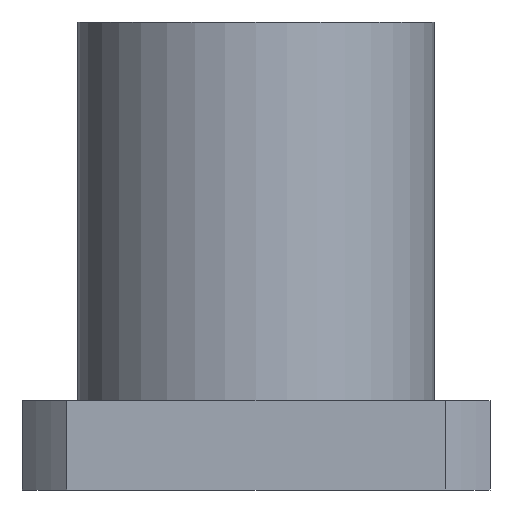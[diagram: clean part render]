
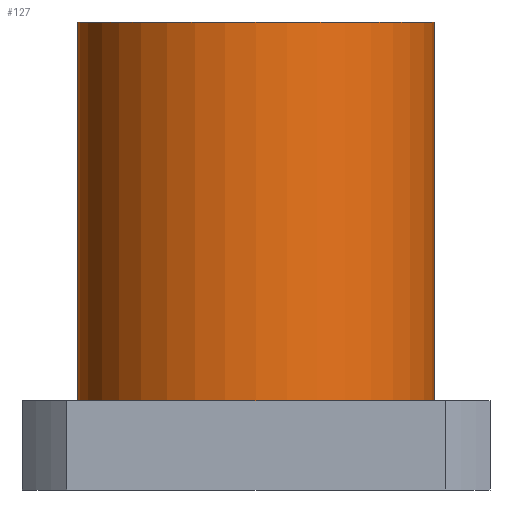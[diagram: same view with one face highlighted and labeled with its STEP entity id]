
A CAD part, front view. The second image highlights one B-rep face of the part: STEP entity #127.
In plain terms, the highlighted cylindrical face has radius 16 mm (diameter 32 mm), a partial arc.
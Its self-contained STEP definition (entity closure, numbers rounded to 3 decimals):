
#86=CARTESIAN_POINT('',(-14.031,3.294,0.0));
#87=DIRECTION('',(0.0,0.0,1.0));
#88=DIRECTION('',(-1.0,0.0,0.0));
#89=AXIS2_PLACEMENT_3D('',#86,#87,#88);
#90=CYLINDRICAL_SURFACE('',#89,16.0);
#91=CARTESIAN_POINT('',(-30.031,3.294,8.0));
#92=VERTEX_POINT('',#91);
#93=CARTESIAN_POINT('',(-30.031,3.294,42.0));
#94=VERTEX_POINT('',#93);
#95=CARTESIAN_POINT('',(-30.031,3.294,8.0));
#96=DIRECTION('',(0.0,0.0,1.0));
#97=VECTOR('',#96,34.0);
#98=LINE('',#95,#97);
#99=EDGE_CURVE('',#92,#94,#98,.T.);
#100=ORIENTED_EDGE('',*,*,#99,.F.);
#101=CARTESIAN_POINT('',(1.969,3.294,8.0));
#102=VERTEX_POINT('',#101);
#103=CARTESIAN_POINT('',(-14.031,3.294,8.0));
#104=DIRECTION('',(0.0,0.0,-1.0));
#105=DIRECTION('',(-1.0,0.0,0.0));
#106=AXIS2_PLACEMENT_3D('',#103,#104,#105);
#107=CIRCLE('',#106,16.0);
#108=EDGE_CURVE('',#102,#92,#107,.T.);
#109=ORIENTED_EDGE('',*,*,#108,.F.);
#110=CARTESIAN_POINT('',(1.969,3.294,42.0));
#111=VERTEX_POINT('',#110);
#112=CARTESIAN_POINT('',(1.969,3.294,42.0));
#113=DIRECTION('',(0.0,0.0,-1.0));
#114=VECTOR('',#113,34.0);
#115=LINE('',#112,#114);
#116=EDGE_CURVE('',#111,#102,#115,.T.);
#117=ORIENTED_EDGE('',*,*,#116,.F.);
#118=CARTESIAN_POINT('',(-14.031,3.294,42.0));
#119=DIRECTION('',(0.0,0.0,-1.0));
#120=DIRECTION('',(-1.0,0.0,0.0));
#121=AXIS2_PLACEMENT_3D('',#118,#119,#120);
#122=CIRCLE('',#121,16.0);
#123=EDGE_CURVE('',#111,#94,#122,.T.);
#124=ORIENTED_EDGE('',*,*,#123,.T.);
#125=EDGE_LOOP('',(#100,#109,#117,#124));
#126=FACE_OUTER_BOUND('',#125,.T.);
#127=ADVANCED_FACE('',(#126),#90,.T.);
